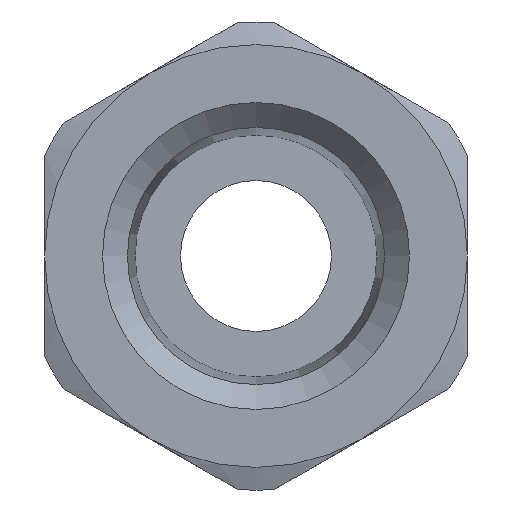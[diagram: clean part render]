
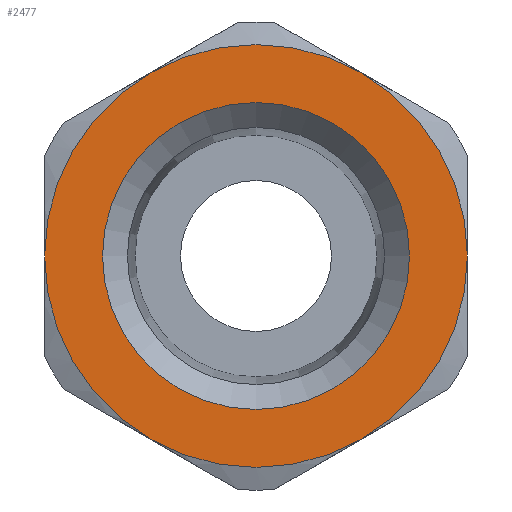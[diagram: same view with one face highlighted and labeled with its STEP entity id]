
A CAD part, front view. The second image highlights one B-rep face of the part: STEP entity #2477.
In plain terms, the highlighted planar face has unit normal (0, -1, 0).
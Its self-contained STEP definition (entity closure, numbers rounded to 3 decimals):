
#1662=CARTESIAN_POINT('',(-3.5,0.,-6.062));
#1663=VERTEX_POINT('',#1662);
#1686=CARTESIAN_POINT('',(3.5,0.,-6.062));
#1687=VERTEX_POINT('',#1686);
#1701=CARTESIAN_POINT('',(0.0,0.,0.0));
#1702=DIRECTION('',(0.0,-1.0,0.0));
#1703=DIRECTION('',(0.0,0.0,1.0));
#1704=AXIS2_PLACEMENT_3D('',#1701,#1702,#1703);
#1705=CIRCLE('',#1704,7.);
#1706=EDGE_CURVE('',#1663,#1687,#1705,.T.);
#1718=CARTESIAN_POINT('',(-7.,0.,0.));
#1719=VERTEX_POINT('',#1718);
#1755=CARTESIAN_POINT('',(0.0,0.,0.0));
#1756=DIRECTION('',(0.0,-1.0,0.0));
#1757=DIRECTION('',(0.0,0.0,1.0));
#1758=AXIS2_PLACEMENT_3D('',#1755,#1756,#1757);
#1759=CIRCLE('',#1758,7.);
#1760=EDGE_CURVE('',#1719,#1663,#1759,.T.);
#1772=CARTESIAN_POINT('',(-3.5,0.,6.062));
#1773=VERTEX_POINT('',#1772);
#1809=CARTESIAN_POINT('',(0.0,0.,0.0));
#1810=DIRECTION('',(0.0,-1.0,0.0));
#1811=DIRECTION('',(0.0,0.0,1.0));
#1812=AXIS2_PLACEMENT_3D('',#1809,#1810,#1811);
#1813=CIRCLE('',#1812,7.);
#1814=EDGE_CURVE('',#1773,#1719,#1813,.T.);
#1824=CARTESIAN_POINT('',(7.,0.,0.));
#1825=VERTEX_POINT('',#1824);
#1841=CARTESIAN_POINT('',(0.0,0.,0.0));
#1842=DIRECTION('',(0.0,-1.0,0.0));
#1843=DIRECTION('',(0.0,0.0,1.0));
#1844=AXIS2_PLACEMENT_3D('',#1841,#1842,#1843);
#1845=CIRCLE('',#1844,7.);
#1846=EDGE_CURVE('',#1687,#1825,#1845,.T.);
#1878=CARTESIAN_POINT('',(3.5,0.,6.062));
#1879=VERTEX_POINT('',#1878);
#1895=CARTESIAN_POINT('',(0.0,0.,0.0));
#1896=DIRECTION('',(0.0,-1.0,0.0));
#1897=DIRECTION('',(0.0,0.0,1.0));
#1898=AXIS2_PLACEMENT_3D('',#1895,#1896,#1897);
#1899=CIRCLE('',#1898,7.);
#1900=EDGE_CURVE('',#1825,#1879,#1899,.T.);
#1969=CARTESIAN_POINT('',(0.0,0.,0.0));
#1970=DIRECTION('',(0.0,-1.0,0.0));
#1971=DIRECTION('',(0.0,0.0,1.0));
#1972=AXIS2_PLACEMENT_3D('',#1969,#1970,#1971);
#1973=CIRCLE('',#1972,7.);
#1974=EDGE_CURVE('',#1879,#1773,#1973,.T.);
#2453=CARTESIAN_POINT('',(1.25,0.,0.0));
#2454=DIRECTION('',(0.0,-1.0,0.0));
#2455=DIRECTION('',(0.0,0.0,-1.0));
#2456=AXIS2_PLACEMENT_3D('',#2453,#2454,#2455);
#2457=PLANE('',#2456);
#2458=ORIENTED_EDGE('',*,*,#1846,.T.);
#2459=ORIENTED_EDGE('',*,*,#1900,.T.);
#2460=ORIENTED_EDGE('',*,*,#1974,.T.);
#2461=ORIENTED_EDGE('',*,*,#1814,.T.);
#2462=ORIENTED_EDGE('',*,*,#1760,.T.);
#2463=ORIENTED_EDGE('',*,*,#1706,.T.);
#2464=EDGE_LOOP('',(#2458,#2459,#2460,#2461,#2462,#2463));
#2465=FACE_OUTER_BOUND('',#2464,.T.);
#2466=CARTESIAN_POINT('',(0.,0.,-5.083));
#2467=VERTEX_POINT('',#2466);
#2468=CARTESIAN_POINT('',(0.0,0.,0.0));
#2469=DIRECTION('',(0.0,-1.0,0.0));
#2470=DIRECTION('',(0.0,0.0,1.0));
#2471=AXIS2_PLACEMENT_3D('',#2468,#2469,#2470);
#2472=CIRCLE('',#2471,5.083);
#2473=EDGE_CURVE('',#2467,#2467,#2472,.T.);
#2474=ORIENTED_EDGE('',*,*,#2473,.F.);
#2475=EDGE_LOOP('',(#2474));
#2476=FACE_BOUND('',#2475,.T.);
#2477=ADVANCED_FACE('',(#2465,#2476),#2457,.T.);
